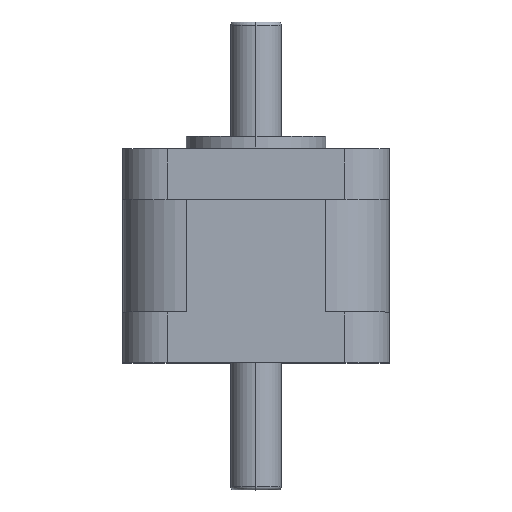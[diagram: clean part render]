
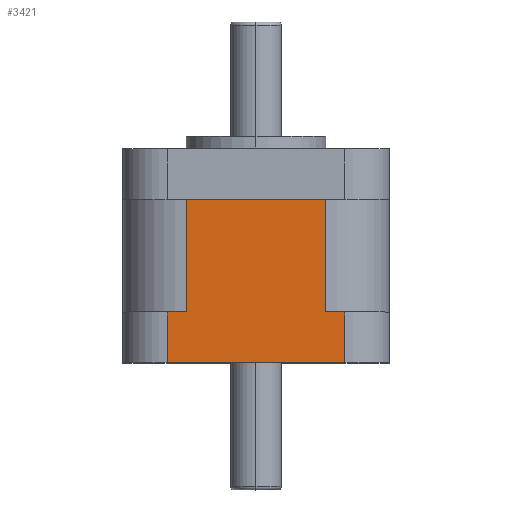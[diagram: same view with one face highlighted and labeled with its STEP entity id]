
A CAD part, top view. The second image highlights one B-rep face of the part: STEP entity #3421.
In plain terms, the highlighted planar face has unit normal (0, 0, 1).
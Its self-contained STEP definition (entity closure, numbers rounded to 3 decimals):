
#51 = EDGE_CURVE ( 'NONE', #147, #2890, #1561, .T. ) ;
#147 = VERTEX_POINT ( 'NONE', #449 ) ;
#181 = ORIENTED_EDGE ( 'NONE', *, *, #3780, .T. ) ;
#214 = DIRECTION ( 'NONE',  ( 0., -1., 0. ) ) ;
#294 = DIRECTION ( 'NONE',  ( -1., 0., 0. ) ) ;
#312 = CARTESIAN_POINT ( 'NONE',  ( 21., -33.7, 21. ) ) ;
#343 = DIRECTION ( 'NONE',  ( 0., 1., 0. ) ) ;
#378 = CARTESIAN_POINT ( 'NONE',  ( -14., -33.7, 21. ) ) ;
#419 = VECTOR ( 'NONE', #214, 1000. ) ;
#439 = EDGE_LOOP ( 'NONE', ( #3925, #1370, #4658, #1814, #4544, #4980, #1002, #181 ) ) ;
#449 = CARTESIAN_POINT ( 'NONE',  ( 14., -25.7, 21. ) ) ;
#550 = VERTEX_POINT ( 'NONE', #3970 ) ;
#670 = DIRECTION ( 'NONE',  ( 0., 1., 0. ) ) ;
#799 = FACE_OUTER_BOUND ( 'NONE', #439, .T. ) ;
#911 = AXIS2_PLACEMENT_3D ( 'NONE', #2688, #3510, #294 ) ;
#913 = EDGE_CURVE ( 'NONE', #3047, #985, #1023, .T. ) ;
#985 = VERTEX_POINT ( 'NONE', #1828 ) ;
#1002 = ORIENTED_EDGE ( 'NONE', *, *, #1185, .T. ) ;
#1010 = CARTESIAN_POINT ( 'NONE',  ( 21., -25.7, 21. ) ) ;
#1023 = LINE ( 'NONE', #1010, #4889 ) ;
#1069 = LINE ( 'NONE', #312, #2379 ) ;
#1095 = DIRECTION ( 'NONE',  ( -1., 0., 0. ) ) ;
#1112 = LINE ( 'NONE', #2543, #3314 ) ;
#1185 = EDGE_CURVE ( 'NONE', #2890, #550, #3586, .T. ) ;
#1370 = ORIENTED_EDGE ( 'NONE', *, *, #913, .T. ) ;
#1491 = DIRECTION ( 'NONE',  ( 0., -1., 0. ) ) ;
#1499 = CARTESIAN_POINT ( 'NONE',  ( 14., -33.7, 21. ) ) ;
#1561 = LINE ( 'NONE', #2761, #3078 ) ;
#1796 = VERTEX_POINT ( 'NONE', #3851 ) ;
#1814 = ORIENTED_EDGE ( 'NONE', *, *, #2029, .F. ) ;
#1828 = CARTESIAN_POINT ( 'NONE',  ( -14., -25.7, 21. ) ) ;
#1895 = EDGE_CURVE ( 'NONE', #2995, #3047, #2268, .T. ) ;
#1933 = CARTESIAN_POINT ( 'NONE',  ( -11., -25.7, 21. ) ) ;
#1990 = LINE ( 'NONE', #1499, #4062 ) ;
#2021 = VECTOR ( 'NONE', #343, 1000. ) ;
#2029 = EDGE_CURVE ( 'NONE', #1796, #2181, #1069, .T. ) ;
#2181 = VERTEX_POINT ( 'NONE', #378 ) ;
#2182 = DIRECTION ( 'NONE',  ( -1., 0., 0. ) ) ;
#2268 = LINE ( 'NONE', #1933, #4750 ) ;
#2379 = VECTOR ( 'NONE', #3496, 1000. ) ;
#2543 = CARTESIAN_POINT ( 'NONE',  ( 21., -8., 21. ) ) ;
#2688 = CARTESIAN_POINT ( 'NONE',  ( 21., -25.7, 21. ) ) ;
#2761 = CARTESIAN_POINT ( 'NONE',  ( 21., -25.7, 21. ) ) ;
#2890 = VERTEX_POINT ( 'NONE', #4328 ) ;
#2995 = VERTEX_POINT ( 'NONE', #4775 ) ;
#3047 = VERTEX_POINT ( 'NONE', #3991 ) ;
#3078 = VECTOR ( 'NONE', #3624, 1000. ) ;
#3314 = VECTOR ( 'NONE', #2182, 1000. ) ;
#3380 = EDGE_CURVE ( 'NONE', #1796, #147, #1990, .T. ) ;
#3421 = ADVANCED_FACE ( 'NONE', ( #799 ), #4656, .F. ) ;
#3496 = DIRECTION ( 'NONE',  ( -1., 0., 0. ) ) ;
#3510 = DIRECTION ( 'NONE',  ( 0., 0., -1. ) ) ;
#3586 = LINE ( 'NONE', #5124, #2021 ) ;
#3624 = DIRECTION ( 'NONE',  ( -1., 0., 0. ) ) ;
#3731 = LINE ( 'NONE', #3811, #419 ) ;
#3780 = EDGE_CURVE ( 'NONE', #550, #2995, #1112, .T. ) ;
#3811 = CARTESIAN_POINT ( 'NONE',  ( -14., -33.7, 21. ) ) ;
#3851 = CARTESIAN_POINT ( 'NONE',  ( 14., -33.7, 21. ) ) ;
#3925 = ORIENTED_EDGE ( 'NONE', *, *, #1895, .T. ) ;
#3970 = CARTESIAN_POINT ( 'NONE',  ( 11., -8., 21. ) ) ;
#3991 = CARTESIAN_POINT ( 'NONE',  ( -11., -25.7, 21. ) ) ;
#4062 = VECTOR ( 'NONE', #670, 1000. ) ;
#4328 = CARTESIAN_POINT ( 'NONE',  ( 11., -25.7, 21. ) ) ;
#4399 = EDGE_CURVE ( 'NONE', #985, #2181, #3731, .T. ) ;
#4544 = ORIENTED_EDGE ( 'NONE', *, *, #3380, .T. ) ;
#4656 = PLANE ( 'NONE',  #911 ) ;
#4658 = ORIENTED_EDGE ( 'NONE', *, *, #4399, .T. ) ;
#4750 = VECTOR ( 'NONE', #1491, 1000. ) ;
#4775 = CARTESIAN_POINT ( 'NONE',  ( -11., -8., 21. ) ) ;
#4889 = VECTOR ( 'NONE', #1095, 1000. ) ;
#4980 = ORIENTED_EDGE ( 'NONE', *, *, #51, .T. ) ;
#5124 = CARTESIAN_POINT ( 'NONE',  ( 11., -25.7, 21. ) ) ;
